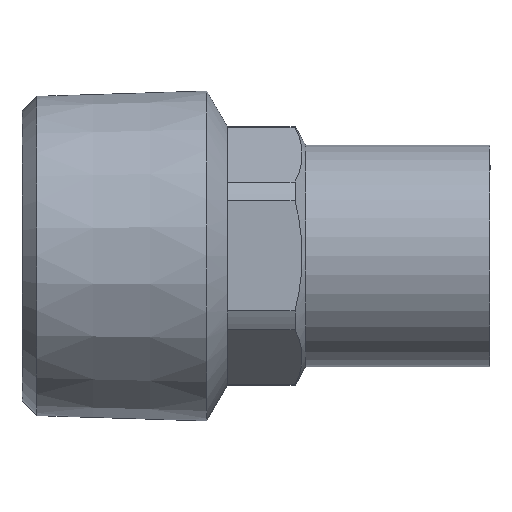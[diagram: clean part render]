
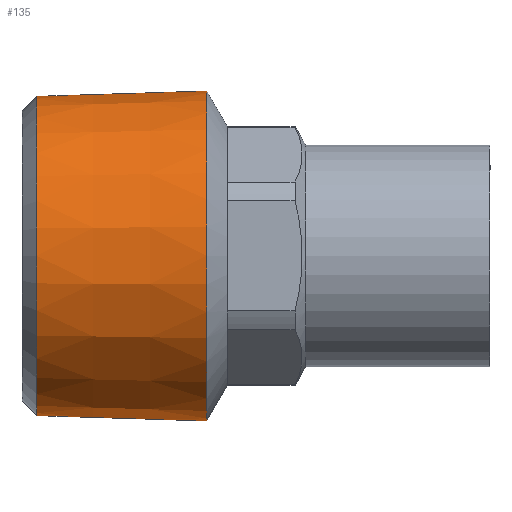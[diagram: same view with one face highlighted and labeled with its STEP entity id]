
A CAD part, top view. The second image highlights one B-rep face of the part: STEP entity #135.
In plain terms, the highlighted conical face has half-angle 1.79 degrees and reference radius 13.159 mm.
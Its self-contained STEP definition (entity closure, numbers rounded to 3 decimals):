
#84=CARTESIAN_POINT('',(1.199,12.962,0.));
#85=VERTEX_POINT('',#84);
#86=CARTESIAN_POINT('',(1.199,0.0,0.));
#87=DIRECTION('',(-1.0,0.0,0.0));
#88=DIRECTION('',(0.0,-1.0,0.0));
#89=AXIS2_PLACEMENT_3D('',#86,#87,#88);
#90=CIRCLE('',#89,12.962);
#91=EDGE_CURVE('',#85,#85,#90,.T.);
#116=CARTESIAN_POINT('',(7.5,0.0,0.0));
#117=DIRECTION('',(1.0,0.0,0.0));
#118=DIRECTION('',(0.0,1.0,0.0));
#119=AXIS2_PLACEMENT_3D('',#116,#117,#118);
#120=CONICAL_SURFACE('',#119,13.159,1.79);
#121=CARTESIAN_POINT('',(15.,13.394,0.0));
#122=VERTEX_POINT('',#121);
#123=CARTESIAN_POINT('',(15.,0.0,0.0));
#124=DIRECTION('',(1.0,0.0,0.0));
#125=DIRECTION('',(0.0,1.0,0.0));
#126=AXIS2_PLACEMENT_3D('',#123,#124,#125);
#127=CIRCLE('',#126,13.394);
#128=EDGE_CURVE('',#122,#122,#127,.T.);
#129=ORIENTED_EDGE('',*,*,#128,.F.);
#130=EDGE_LOOP('',(#129));
#131=FACE_OUTER_BOUND('',#130,.T.);
#132=ORIENTED_EDGE('',*,*,#91,.F.);
#133=EDGE_LOOP('',(#132));
#134=FACE_BOUND('',#133,.T.);
#135=ADVANCED_FACE('',(#131,#134),#120,.T.);
